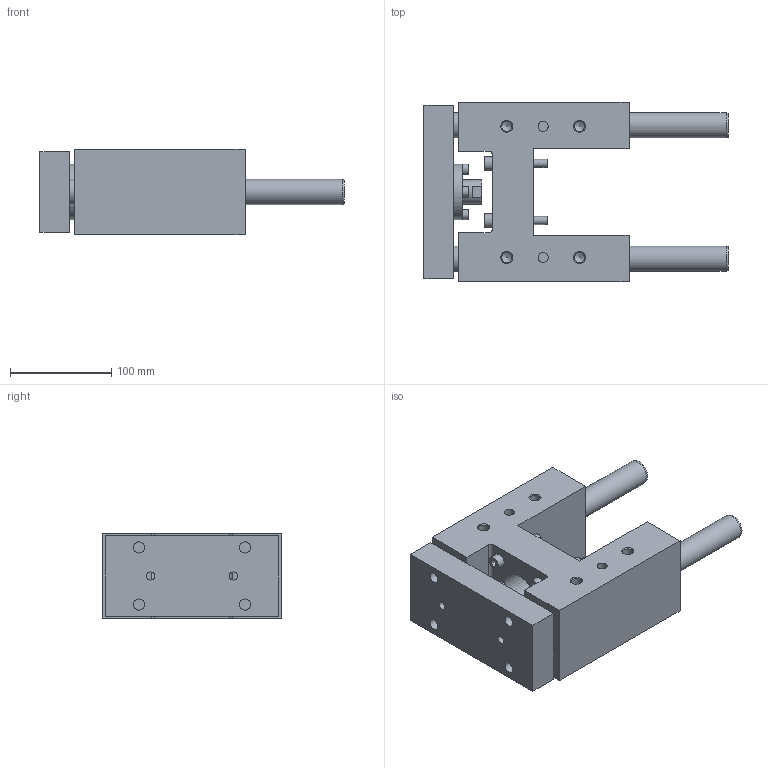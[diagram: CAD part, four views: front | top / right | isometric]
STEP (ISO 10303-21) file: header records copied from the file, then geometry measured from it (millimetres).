
FILE_DESCRIPTION( ( 'STEP AP214' ), '1' );
FILE_NAME( 'U:/Etudes/Top Solid/BIBLIO 3D AVM/TOP/PNEUMATIQUE/GUIDAGES/Type 32 (en H)/R_Renforcée/327R1_30.step', '2005-05-27T09:05:07', ( ' ' ), ( ' ' ), 'XStep 1.0', ' ', ' ' );
FILE_SCHEMA( ( 'automotive_design' ) );
Length unit declared in the file: metre
Products named in the file (2): 1; 2
Bounding box: 301 x 178 x 85 mm (x, y, z)
Volume: 2063688 mm3; surface area: 262619.7 mm2
Topology: 2 solids, 7 shells, 209 faces, 484 edges, 321 vertices
Faces by surface type: plane 118, cylinder 70, cone 21
Full cylindrical faces by diameter (mm): 6 x8, 6.5 x4, 8 x10, 8.376 x4, 9 x4, 10 x6, 10.106 x8, 11 x4, 13 x4, 14.376 x2, 18 x4, 24 x1, 25 x4, 26 x1, 34 x1, 37 x1, 45 x1, 55 x1
Entity records: 7089 total; most frequent: CARTESIAN_POINT 1103, DIRECTION 900, ORIENTED_EDGE 696, EDGE_LOOP 358, AXIS2_PLACEMENT_3D 349, EDGE_CURVE 348, VERTEX_POINT 280, FACE_OUTER_BOUND 277
